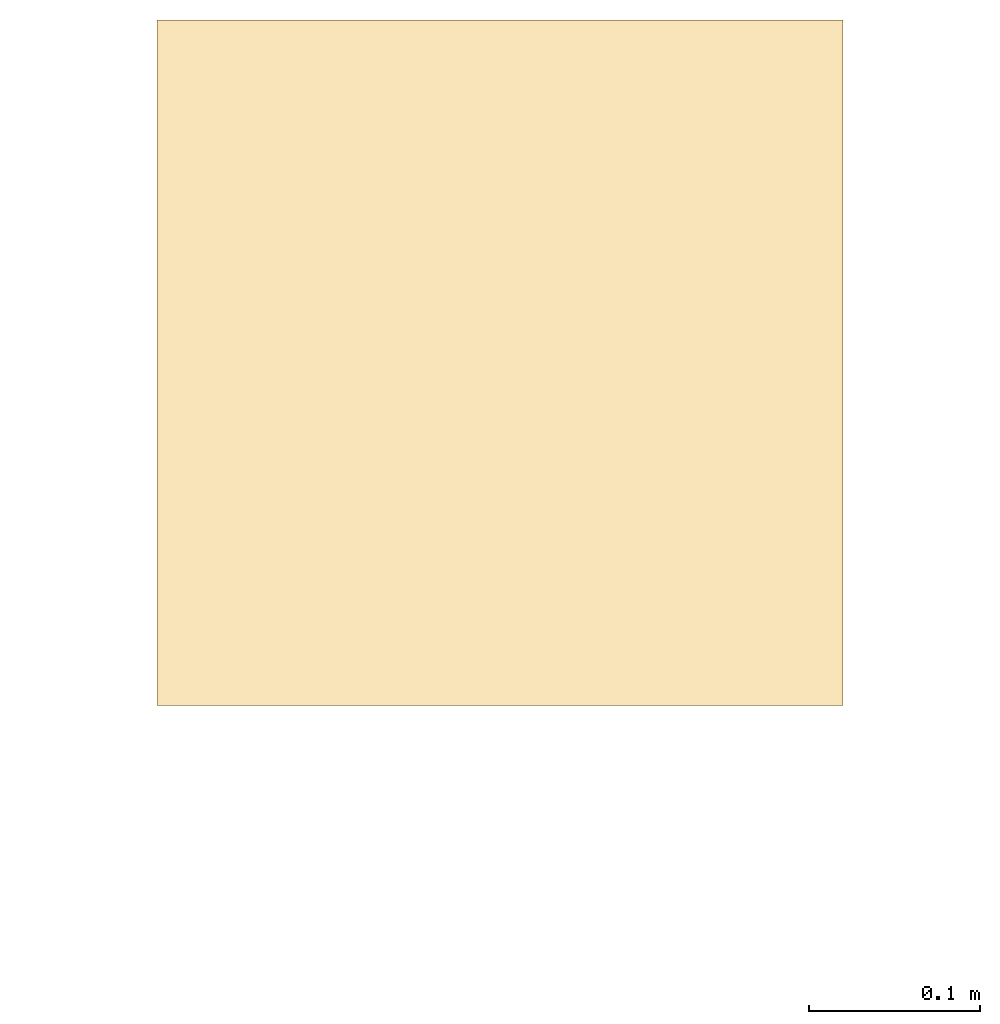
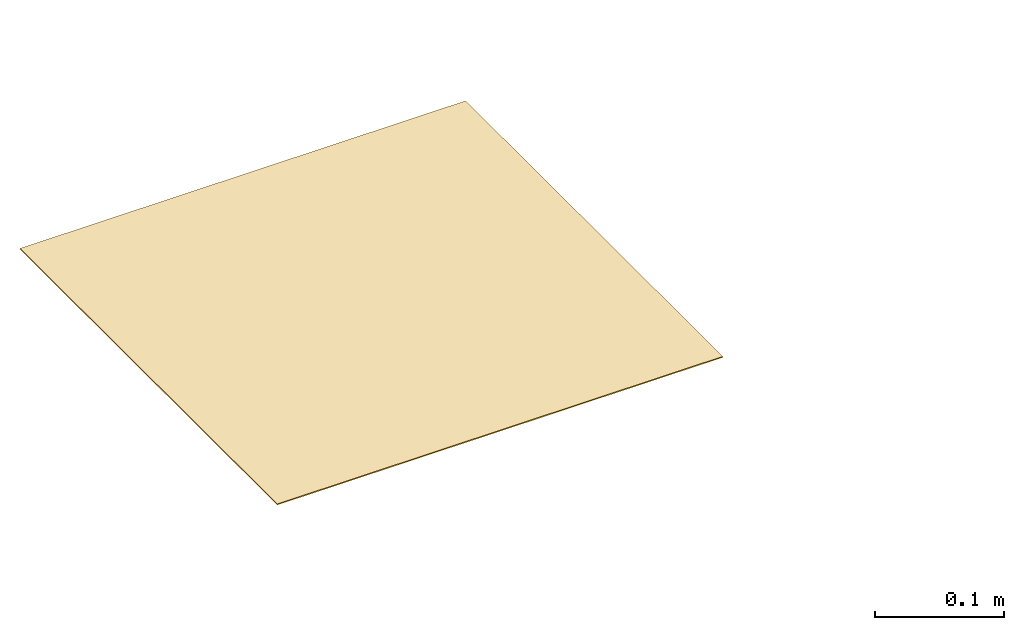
# One storey, part 2 of 3: 1 covering.
"""IFC2X3 building model written with IfcOpenShell, lengths in metres."""

from ifc_helpers import new_model, entity, si_unit, converted_unit, derived_unit, direction, frame, origin, origin_2d_with_axis, place, context, subcontext, project, spatial, rectangle, extrude, material, layer, layer_set, layer_usage, type_object, element, save


model = new_model("IFC2X3")

# Units and contexts
model_context = context("Model", 3, precision=1e-05, world=origin(), true_north=direction((6.123031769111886e-17, 1.0)))
body_context = subcontext(model_context, "Body", "Model", "MODEL_VIEW")
ifc_project = project(units=[si_unit("LENGTHUNIT", "METRE"), si_unit("AREAUNIT", "SQUARE_METRE"), si_unit("VOLUMEUNIT", "CUBIC_METRE"), converted_unit("PLANEANGLEUNIT", "DEGREE", entity("IfcRatioMeasure", 0.017453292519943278), si_unit("PLANEANGLEUNIT", "RADIAN"), dimensions=[0, 0, 0, 0, 0, 0, 0]), si_unit("MASSUNIT", "GRAM", prefix="KILO"), derived_unit("MASSDENSITYUNIT", [(si_unit("MASSUNIT", "GRAM", prefix="KILO"), 1), (si_unit("LENGTHUNIT", "METRE"), -3)]), derived_unit("IONCONCENTRATIONUNIT", [(si_unit("MASSUNIT", "GRAM", prefix="KILO"), 1), (si_unit("LENGTHUNIT", "METRE"), -3)]), derived_unit("MOMENTOFINERTIAUNIT", [(si_unit("LENGTHUNIT", "METRE"), 4)]), si_unit("TIMEUNIT", "SECOND"), si_unit("FREQUENCYUNIT", "HERTZ"), si_unit("THERMODYNAMICTEMPERATUREUNIT", "DEGREE_CELSIUS"), derived_unit("THERMALTRANSMITTANCEUNIT", [(si_unit("MASSUNIT", "GRAM", prefix="KILO"), 1), (si_unit("THERMODYNAMICTEMPERATUREUNIT", "KELVIN"), -1), (si_unit("TIMEUNIT", "SECOND"), -3)]), derived_unit("THERMALCONDUCTANCEUNIT", [(si_unit("MASSUNIT", "GRAM", prefix="KILO"), 1), (si_unit("THERMODYNAMICTEMPERATUREUNIT", "KELVIN"), -1), (si_unit("TIMEUNIT", "SECOND"), -3), (si_unit("LENGTHUNIT", "METRE"), 1)]), derived_unit("VOLUMETRICFLOWRATEUNIT", [(si_unit("LENGTHUNIT", "METRE"), 3), (si_unit("TIMEUNIT", "SECOND"), -1)]), derived_unit("MASSFLOWRATEUNIT", [(si_unit("MASSUNIT", "GRAM", prefix="KILO"), 1), (si_unit("TIMEUNIT", "SECOND"), -1)]), derived_unit("ROTATIONALFREQUENCYUNIT", [(si_unit("TIMEUNIT", "SECOND"), -1)]), si_unit("ELECTRICCURRENTUNIT", "AMPERE"), si_unit("ELECTRICVOLTAGEUNIT", "VOLT"), si_unit("POWERUNIT", "WATT"), si_unit("FORCEUNIT", "NEWTON", prefix="KILO"), si_unit("ILLUMINANCEUNIT", "LUX"), si_unit("LUMINOUSFLUXUNIT", "LUMEN"), si_unit("LUMINOUSINTENSITYUNIT", "CANDELA"), derived_unit("USERDEFINED", [(si_unit("MASSUNIT", "GRAM", prefix="KILO"), -1), (si_unit("LENGTHUNIT", "METRE"), -2), (si_unit("TIMEUNIT", "SECOND"), 3), (si_unit("LUMINOUSFLUXUNIT", "LUMEN"), 1)]), derived_unit("USERDEFINED", [(si_unit("MASSUNIT", "GRAM", prefix="KILO"), 1), (si_unit("TIMEUNIT", "SECOND"), -3), (si_unit("LENGTHUNIT", "METRE"), 3), (si_unit("ELECTRICCURRENTUNIT", "AMPERE"), -2)]), derived_unit("SOUNDPOWERUNIT", [(si_unit("MASSUNIT", "GRAM", prefix="KILO"), 1), (si_unit("TIMEUNIT", "SECOND"), -3), (si_unit("LENGTHUNIT", "METRE"), 2)]), derived_unit("SOUNDPRESSUREUNIT", [(si_unit("MASSUNIT", "GRAM", prefix="KILO"), 1), (si_unit("LENGTHUNIT", "METRE"), -1), (si_unit("TIMEUNIT", "SECOND"), -2)]), derived_unit("LINEARVELOCITYUNIT", [(si_unit("LENGTHUNIT", "METRE"), 1), (si_unit("TIMEUNIT", "SECOND"), -1)]), si_unit("PRESSUREUNIT", "PASCAL"), derived_unit("USERDEFINED", [(si_unit("MASSUNIT", "GRAM", prefix="KILO"), 1), (si_unit("LENGTHUNIT", "METRE"), -2), (si_unit("TIMEUNIT", "SECOND"), -2)]), derived_unit("LINEARFORCEUNIT", [(si_unit("MASSUNIT", "GRAM", prefix="KILO"), 1), (si_unit("TIMEUNIT", "SECOND"), -2)]), derived_unit("PLANARFORCEUNIT", [(si_unit("MASSUNIT", "GRAM", prefix="KILO"), 1), (si_unit("LENGTHUNIT", "METRE"), -1), (si_unit("TIMEUNIT", "SECOND"), -2)]), derived_unit("SPECIFICHEATCAPACITYUNIT", [(si_unit("THERMODYNAMICTEMPERATUREUNIT", "KELVIN"), -1), (si_unit("LENGTHUNIT", "METRE"), 2), (si_unit("TIMEUNIT", "SECOND"), -2)]), derived_unit("HEATINGVALUEUNIT", [(si_unit("LENGTHUNIT", "METRE"), 2), (si_unit("TIMEUNIT", "SECOND"), -2)]), derived_unit("VAPORPERMEABILITYUNIT", [(si_unit("LENGTHUNIT", "METRE"), -1), (si_unit("TIMEUNIT", "SECOND"), 1)]), derived_unit("DYNAMICVISCOSITYUNIT", [(si_unit("MASSUNIT", "GRAM", prefix="KILO"), 1), (si_unit("TIMEUNIT", "SECOND"), -1), (si_unit("LENGTHUNIT", "METRE"), -1)]), derived_unit("THERMALEXPANSIONCOEFFICIENTUNIT", [(si_unit("THERMODYNAMICTEMPERATUREUNIT", "KELVIN"), -1)]), derived_unit("MODULUSOFELASTICITYUNIT", [(si_unit("MASSUNIT", "GRAM", prefix="KILO"), 1), (si_unit("LENGTHUNIT", "METRE"), -1), (si_unit("TIMEUNIT", "SECOND"), -2)]), derived_unit("ISOTHERMALMOISTURECAPACITYUNIT", [(si_unit("LENGTHUNIT", "METRE"), 3), (si_unit("MASSUNIT", "GRAM", prefix="KILO"), -1)]), derived_unit("MOISTUREDIFFUSIVITYUNIT", [(si_unit("TIMEUNIT", "SECOND"), -1), (si_unit("LENGTHUNIT", "METRE"), 2)])], contexts=[model_context])

# Site, building, storey
site_placement = place(None, origin())
site = spatial("IfcSite", under=ifc_project, at=site_placement, Name="Default", CompositionType="ELEMENT")
building_placement = place(site_placement, origin())
building = spatial("IfcBuilding", under=site, at=building_placement, CompositionType="ELEMENT")
storey_placement = place(building_placement, frame((0.0, 0.0, -0.0025237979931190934)))
storey = spatial("IfcBuildingStorey", under=building, at=storey_placement, Name="ARQ Térreo", CompositionType="ELEMENT", Elevation=-0.0025237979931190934)

# Covering
ifc_material = material(Name="#Viapoxi Coat")
ifc_layer = layer(ifc_material, 0.0009999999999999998)
ifc_layer_set = layer_set([ifc_layer], Name="Forro composto:IMPT - VIAPOXI COAT")
ifc_layer_usage = layer_usage(ifc_layer_set, "AXIS3", "POSITIVE", 0.0)
covering_type = type_object("IfcCoveringType", Name="Forro composto:IMPT - VIAPOXI COAT", PredefinedType="CEILING")
covering_placement = place(storey_placement, origin())
element("IfcCovering", 1, at=covering_placement, inside=storey, type_object=covering_type, material=ifc_layer_usage, Name="Forro composto:IMPT - VIAPOXI COAT", ObjectType="Forro composto:IMPT - VIAPOXI COAT", PredefinedType="CEILING", context=body_context, shape_type="SweptSolid", body=[
    extrude(rectangle(XDim=0.4000000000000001, YDim=0.4, at=origin_2d_with_axis()), frame((-0.042989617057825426, 2.1507680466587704, 0.0), z_axis=(0.0, 0.0, 1.0), x_axis=(-1.0, 0.0, 0.0)), (0.0, 0.0, 1.0), 0.001),
])

save(model, "model.ifc")
